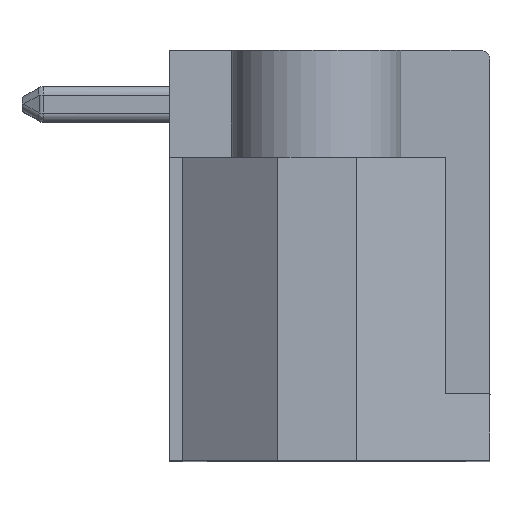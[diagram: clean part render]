
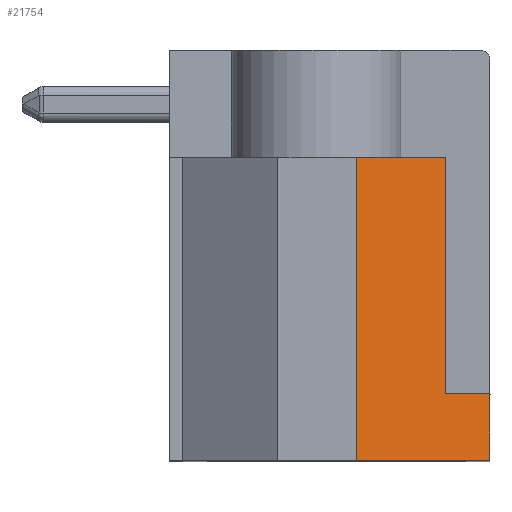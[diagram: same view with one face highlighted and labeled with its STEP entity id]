
A CAD part, top view. The second image highlights one B-rep face of the part: STEP entity #21754.
In plain terms, the highlighted planar face has unit normal (0.574, 0, 0.819).
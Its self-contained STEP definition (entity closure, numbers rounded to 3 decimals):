
#11125 = CARTESIAN_POINT ( 'NONE',  ( 3.9, 1.25, -2.1 ) ) ;
#11126 = DIRECTION ( 'NONE',  ( 0.819, 0., -0.574 ) ) ;
#11127 = VECTOR ( 'NONE', #11126, 1000. ) ;
#11128 = CARTESIAN_POINT ( 'NONE',  ( 2.9, 1.25, -1.4 ) ) ;
#11129 = LINE ( 'NONE', #11128, #11127 ) ;
#11130 = CARTESIAN_POINT ( 'NONE',  ( 2.9, 1.25, -1.4 ) ) ;
#11241 = CARTESIAN_POINT ( 'NONE',  ( 2.9, 6.55, -1.4 ) ) ;
#11266 = DIRECTION ( 'NONE',  ( -0.819, 0., 0.574 ) ) ;
#11268 = VECTOR ( 'NONE', #11266, 1000. ) ;
#11269 = CARTESIAN_POINT ( 'NONE',  ( 2.4, 6.55, -1.05 ) ) ;
#11270 = LINE ( 'NONE', #11269, #11268 ) ;
#11271 = CARTESIAN_POINT ( 'NONE',  ( 0.901, 6.55, 0. ) ) ;
#11302 = DIRECTION ( 'NONE',  ( 0., 1., 0. ) ) ;
#11303 = VECTOR ( 'NONE', #11302, 1000. ) ;
#11304 = CARTESIAN_POINT ( 'NONE',  ( 2.9, 3.15, -1.4 ) ) ;
#11305 = LINE ( 'NONE', #11304, #11303 ) ;
#11763 = DIRECTION ( 'NONE',  ( 0.819, 0., -0.574 ) ) ;
#11764 = DIRECTION ( 'NONE',  ( 0.574, 0., 0.819 ) ) ;
#11765 = CARTESIAN_POINT ( 'NONE',  ( 0.901, -0.25, 0. ) ) ;
#11766 = AXIS2_PLACEMENT_3D ( 'NONE', #11765, #11764, #11763 ) ;
#11767 = PLANE ( 'NONE',  #11766 ) ;
#11768 = FACE_OUTER_BOUND ( 'NONE', #21755, .T. ) ;
#11780 = DIRECTION ( 'NONE',  ( 0., 1., 0. ) ) ;
#11781 = VECTOR ( 'NONE', #11780, 1000. ) ;
#11782 = CARTESIAN_POINT ( 'NONE',  ( 0.901, 3.15, 0. ) ) ;
#11783 = LINE ( 'NONE', #11782, #11781 ) ;
#11784 = CARTESIAN_POINT ( 'NONE',  ( 0.901, -0.25, 0. ) ) ;
#11785 = DIRECTION ( 'NONE',  ( -0.819, 0., 0.574 ) ) ;
#11786 = VECTOR ( 'NONE', #11785, 1000. ) ;
#11787 = CARTESIAN_POINT ( 'NONE',  ( 3.9, -0.25, -2.1 ) ) ;
#11788 = LINE ( 'NONE', #11787, #11786 ) ;
#11824 = CARTESIAN_POINT ( 'NONE',  ( 3.9, -0.25, -2.1 ) ) ;
#11825 = DIRECTION ( 'NONE',  ( 0., 1., 0. ) ) ;
#11826 = VECTOR ( 'NONE', #11825, 1000. ) ;
#11827 = CARTESIAN_POINT ( 'NONE',  ( 3.9, 3.15, -2.1 ) ) ;
#11828 = LINE ( 'NONE', #11827, #11826 ) ;
#21302 = VERTEX_POINT ( 'NONE', #11130 ) ;
#21304 = EDGE_CURVE ( 'NONE', #21302, #21305, #11129, .T. ) ;
#21305 = VERTEX_POINT ( 'NONE', #11125 ) ;
#21367 = VERTEX_POINT ( 'NONE', #11271 ) ;
#21369 = EDGE_CURVE ( 'NONE', #21388, #21367, #11270, .T. ) ;
#21388 = VERTEX_POINT ( 'NONE', #11241 ) ;
#21390 = EDGE_CURVE ( 'NONE', #21302, #21388, #11305, .T. ) ;
#21732 = ORIENTED_EDGE ( 'NONE', *, *, #21733, .F. ) ;
#21733 = EDGE_CURVE ( 'NONE', #21763, #21734, #11788, .T. ) ;
#21734 = VERTEX_POINT ( 'NONE', #11784 ) ;
#21735 = ORIENTED_EDGE ( 'NONE', *, *, #21762, .T. ) ;
#21736 = ORIENTED_EDGE ( 'NONE', *, *, #21304, .F. ) ;
#21737 = ORIENTED_EDGE ( 'NONE', *, *, #21390, .T. ) ;
#21738 = ORIENTED_EDGE ( 'NONE', *, *, #21369, .T. ) ;
#21739 = ORIENTED_EDGE ( 'NONE', *, *, #21740, .F. ) ;
#21740 = EDGE_CURVE ( 'NONE', #21734, #21367, #11783, .T. ) ;
#21754 = ADVANCED_FACE ( 'NONE', ( #11768 ), #11767, .T. ) ;
#21755 = EDGE_LOOP ( 'NONE', ( #21732, #21735, #21736, #21737, #21738, #21739 ) ) ;
#21762 = EDGE_CURVE ( 'NONE', #21763, #21305, #11828, .T. ) ;
#21763 = VERTEX_POINT ( 'NONE', #11824 ) ;
